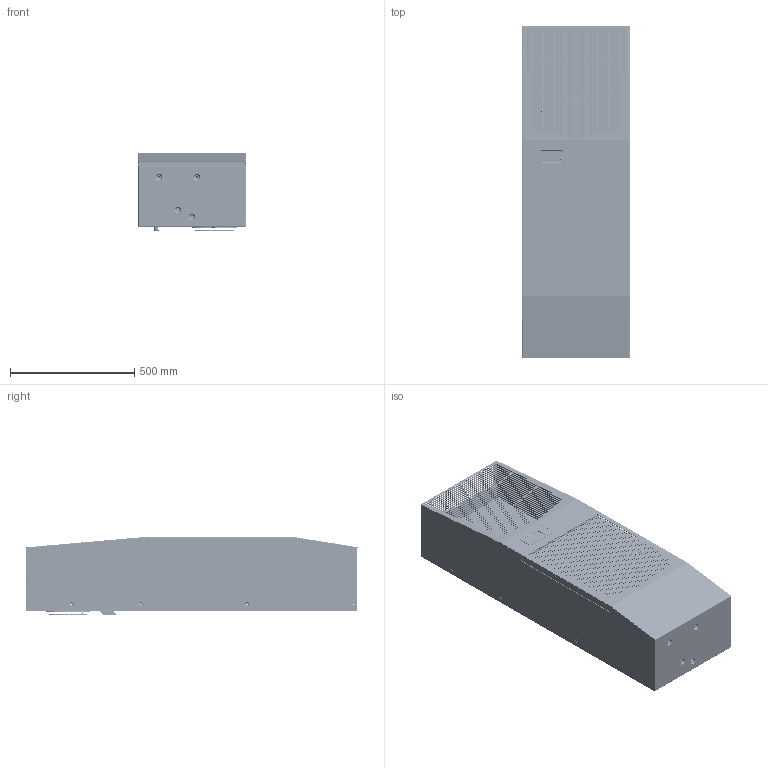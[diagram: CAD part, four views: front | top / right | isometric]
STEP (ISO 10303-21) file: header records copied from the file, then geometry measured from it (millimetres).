
FILE_DESCRIPTION (( 'STEP AP203' ), '1' );
FILE_NAME ('g520816g050.STEP', '2013-04-15T17:52:48', ( 'User' ), ( 'Pentair Inc' ), 'SwSTEP 2.0', 'SolidWorks 2010', '' );
FILE_SCHEMA (( 'CONFIG_CONTROL_DESIGN' ));
Products named in the file (22): g520816g050; 89078936; 10-1002-455; 52-6144-00; 38-2023-12; 89078937; 52-6010-11; 89098955; 89098956; 89098957; 89098958; 89098960; 89098959; 10-1097-03_AS USED; 89095627; 89096884; 10-1131-08; 10-1002-478; 52-6221-00; 89059345_CR-PHMS 0.19-24x0.375x0.375-N; 89100930; 13-1014-02
Assembly tree (54 placements, depth 3):
  g520816g050
    89100930
    89095627  x2
    89059345_CR-PHMS 0.19-24x0.375x0.375-N  x2
    10-1002-455
    52-6010-11
    89078936
    10-1002-478
    52-6144-00
    13-1014-02
    89078937
    89098955
      10-1097-03_AS USED  x32
      89098956
      89098958
      89098959
      89098960
      89098957
    89096884
    52-6221-00
    38-2023-12
    10-1131-08
Bounding box: 437.69 x 1338.57 x 317.49 mm (x, y, z)
Volume: 5357384 mm3; surface area: 7413655.8 mm2
Topology: 67 solids, 91 shells, 7440 faces, 19587 edges, 12565 vertices
Faces by surface type: plane 4766, cylinder 1407, torus 596, bspline 480, cone 187, sphere 4
Full cylindrical faces by diameter (mm): 9.525 x22
Entity records: 232763 total; most frequent: CARTESIAN_POINT 56588, ORIENTED_EDGE 36332, DIRECTION 34359, EDGE_CURVE 18188, VECTOR 13805, LINE 13805, VERTEX_POINT 11763, AXIS2_PLACEMENT_3D 10277
